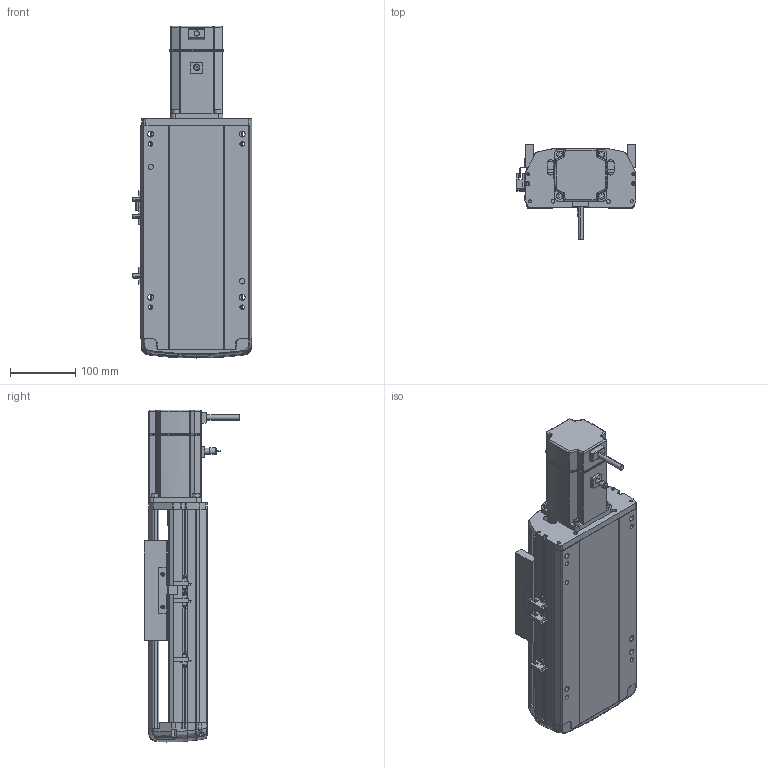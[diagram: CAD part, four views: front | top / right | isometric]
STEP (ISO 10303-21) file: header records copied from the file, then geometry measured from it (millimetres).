
FILE_DESCRIPTION (( 'STEP AP214' ), '1' );
FILE_NAME ('RTH17-XX-100-E-M75-C4.STEP', '2025-10-24T09:33:50', ( '' ), ( '' ), 'SwSTEP 2.0', 'SolidWorks 2018', '' );
FILE_SCHEMA (( 'AUTOMOTIVE_DESIGN' ));
Length unit declared in the file: millimetre
Products named in the file (9): N_RTH17-E-007上盖^RTH17-XX-XX-E-M75-C4（方程式）; N_RTH17-GY-001P^RTH17-XX-XX-E-M75-C4（方程式）; RTH17-XX-100-E-M75-C4; N_RTH17-E-004丝杆螺母连接座^RTH17-XX-XX-E-M75-C4（方程式）; N_OMRON EE-SX672 換覜ん^RTH17-XX-XX-E-M75-C4ㄗ源最宒ㄘ; N_RTH17-E-008-P75电机板^RTH17-XX-XX-E-M75-C4（方程式）; N_RTH-L-012 感应片(外置)^RTH17-XX-XX-E-M75-C4（方程式）; N_RTH17-E-011底座^RTH17-XX-XX-E-M75-C4（方程式）; N_M75^RTH17-XX-XX-E-M75-C4（方程式）
Assembly tree (10 placements, depth 2):
  RTH17-XX-100-E-M75-C4
    N_RTH17-E-011底座^RTH17-XX-XX-E-M75-C4（方程式）
    N_RTH17-E-007上盖^RTH17-XX-XX-E-M75-C4（方程式）
    N_M75^RTH17-XX-XX-E-M75-C4（方程式）
    N_RTH17-E-008-P75电机板^RTH17-XX-XX-E-M75-C4（方程式）
    N_OMRON EE-SX672 換覜ん^RTH17-XX-XX-E-M75-C4ㄗ源最宒ㄘ  x3
    N_RTH-L-012 感应片(外置)^RTH17-XX-XX-E-M75-C4（方程式）
    N_RTH17-E-004丝杆螺母连接座^RTH17-XX-XX-E-M75-C4（方程式）
    N_RTH17-GY-001P^RTH17-XX-XX-E-M75-C4（方程式）
Bounding box: 183.5 x 145.7 x 508.27 mm (x, y, z)
Volume: 4023085.2 mm3; surface area: 555815.4 mm2
Topology: 9 solids, 11 shells, 1716 faces, 4713 edges, 3050 vertices
Faces by surface type: plane 816, cylinder 486, bspline 377, cone 28, torus 9
Entity records: 49462 total; most frequent: CARTESIAN_POINT 19647, ORIENTED_EDGE 6450, DIRECTION 5417, EDGE_CURVE 3229, VERTEX_POINT 2086, AXIS2_PLACEMENT_3D 1823, LINE 1771, VECTOR 1771
